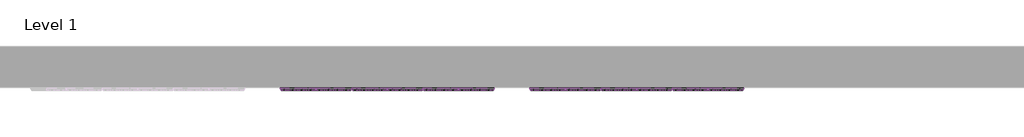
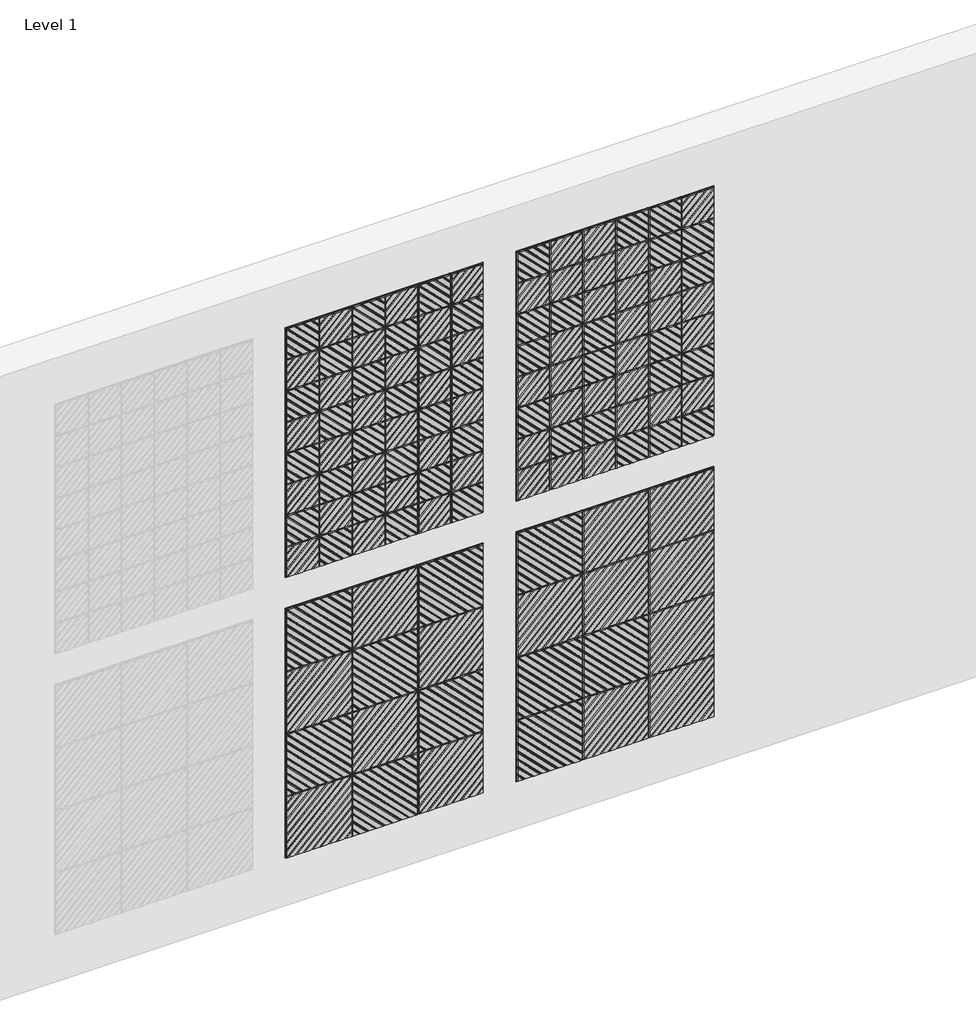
# One storey, part 3 of 3: 120 proxies.
"""IFC4 building model written with IfcOpenShell, lengths in millimetres."""

from ifc_helpers import new_model, si_unit, origin, place, context, project, spatial, transform, mapped, element, save
from components import maz_1_18_b906de22, maz_1_18_0f88ea6f, maz_2_18_823d9414, maz_2_18_ea886329

model = new_model("IFC4")

# Units and contexts
model_context = context("Model", 3, world=origin())
ifc_project = project(units=[si_unit("LENGTHUNIT", "METRE", prefix="MILLI")], contexts=[model_context])

# Site, building, storey
site = spatial("IfcSite", under=ifc_project)
building = spatial("IfcBuilding", under=site)
storey = spatial("IfcBuildingStorey", under=building, Name="Level 1", Elevation=0.0)

# Proxies
placement = place(None, origin())
maz_1_18_shape = maz_1_18_b906de22(model_context)
element("IfcBuildingElementProxy", 1, Name="Turf_Wall Tile_Maze : MAZ-1-18", ObjectType="Turf_Wall Tile_Maze : MAZ-1-18", at=placement, inside=storey, context=model_context, shape_type="MappedRepresentation", body=[
    mapped(maz_1_18_shape, transform((8039.9030998, 1379.3506904, 5501.5326506), x_axis=(1.0, 0.0, 0.0), y_axis=(0.0, 0.0, 1.0), z_axis=(0.0, -1.0, 0.0))),
])
element("IfcBuildingElementProxy", 2, Name="Turf_Wall Tile_Maze : MAZ-1-18", ObjectType="Turf_Wall Tile_Maze : MAZ-1-18", at=placement, inside=storey, context=model_context, shape_type="MappedRepresentation", body=[
    mapped(maz_1_18_shape, transform((8344.7030998, 1379.3506904, 5501.5326506), x_axis=(0.0, 0.0, 1.0), y_axis=(-1.0, 0.0, 0.0), z_axis=(0.0, -1.0, 0.0))),
])
element("IfcBuildingElementProxy", 3, Name="Turf_Wall Tile_Maze : MAZ-1-18", ObjectType="Turf_Wall Tile_Maze : MAZ-1-18", at=placement, inside=storey, context=model_context, shape_type="MappedRepresentation", body=[
    mapped(maz_1_18_shape, transform((9259.1030998, 1379.3506904, 5501.5326506), x_axis=(1.0, 0.0, 0.0), y_axis=(0.0, 0.0, 1.0), z_axis=(0.0, -1.0, 0.0))),
])
element("IfcBuildingElementProxy", 4, Name="Turf_Wall Tile_Maze : MAZ-1-18", ObjectType="Turf_Wall Tile_Maze : MAZ-1-18", at=placement, inside=storey, context=model_context, shape_type="MappedRepresentation", body=[
    mapped(maz_1_18_shape, transform((7735.1030998, 1379.3506904, 5501.5326506), x_axis=(0.0, 0.0, 1.0), y_axis=(-1.0, 0.0, 0.0), z_axis=(0.0, -1.0, 0.0))),
])
element("IfcBuildingElementProxy", 5, Name="Turf_Wall Tile_Maze : MAZ-1-18", ObjectType="Turf_Wall Tile_Maze : MAZ-1-18", at=placement, inside=storey, context=model_context, shape_type="MappedRepresentation", body=[
    mapped(maz_1_18_shape, transform((8649.5030998, 1379.3506904, 5501.5326506), x_axis=(1.0, 0.0, 0.0), y_axis=(0.0, 0.0, 1.0), z_axis=(0.0, -1.0, 0.0))),
])
element("IfcBuildingElementProxy", 6, Name="Turf_Wall Tile_Maze : MAZ-1-18", ObjectType="Turf_Wall Tile_Maze : MAZ-1-18", at=placement, inside=storey, context=model_context, shape_type="MappedRepresentation", body=[
    mapped(maz_1_18_shape, transform((8954.3030998, 1379.3506904, 5501.5326506), x_axis=(0.0, 0.0, 1.0), y_axis=(-1.0, 0.0, 0.0), z_axis=(0.0, -1.0, 0.0))),
])
element("IfcBuildingElementProxy", 7, Name="Turf_Wall Tile_Maze : MAZ-1-18", ObjectType="Turf_Wall Tile_Maze : MAZ-1-18", at=placement, inside=storey, context=model_context, shape_type="MappedRepresentation", body=[
    mapped(maz_1_18_shape, transform((8039.9030998, 1379.3506904, 4891.9326506), x_axis=(1.0, 0.0, 0.0), y_axis=(0.0, 0.0, 1.0), z_axis=(0.0, -1.0, 0.0))),
])
element("IfcBuildingElementProxy", 8, Name="Turf_Wall Tile_Maze : MAZ-1-18", ObjectType="Turf_Wall Tile_Maze : MAZ-1-18", at=placement, inside=storey, context=model_context, shape_type="MappedRepresentation", body=[
    mapped(maz_1_18_shape, transform((8344.7030998, 1379.3506904, 4891.9326506), x_axis=(0.0, 0.0, 1.0), y_axis=(-1.0, 0.0, 0.0), z_axis=(0.0, -1.0, 0.0))),
])
element("IfcBuildingElementProxy", 9, Name="Turf_Wall Tile_Maze : MAZ-1-18", ObjectType="Turf_Wall Tile_Maze : MAZ-1-18", at=placement, inside=storey, context=model_context, shape_type="MappedRepresentation", body=[
    mapped(maz_1_18_shape, transform((9259.1030998, 1379.3506904, 4891.9326506), x_axis=(1.0, 0.0, 0.0), y_axis=(0.0, 0.0, 1.0), z_axis=(0.0, -1.0, 0.0))),
])
element("IfcBuildingElementProxy", 10, Name="Turf_Wall Tile_Maze : MAZ-1-18", ObjectType="Turf_Wall Tile_Maze : MAZ-1-18", at=placement, inside=storey, context=model_context, shape_type="MappedRepresentation", body=[
    mapped(maz_1_18_shape, transform((7735.1030998, 1379.3506904, 4891.9326506), x_axis=(0.0, 0.0, 1.0), y_axis=(-1.0, 0.0, 0.0), z_axis=(0.0, -1.0, 0.0))),
])
element("IfcBuildingElementProxy", 11, Name="Turf_Wall Tile_Maze : MAZ-1-18", ObjectType="Turf_Wall Tile_Maze : MAZ-1-18", at=placement, inside=storey, context=model_context, shape_type="MappedRepresentation", body=[
    mapped(maz_1_18_shape, transform((8649.5030998, 1379.3506904, 4891.9326506), x_axis=(1.0, 0.0, 0.0), y_axis=(0.0, 0.0, 1.0), z_axis=(0.0, -1.0, 0.0))),
])
element("IfcBuildingElementProxy", 12, Name="Turf_Wall Tile_Maze : MAZ-1-18", ObjectType="Turf_Wall Tile_Maze : MAZ-1-18", at=placement, inside=storey, context=model_context, shape_type="MappedRepresentation", body=[
    mapped(maz_1_18_shape, transform((8954.3030998, 1379.3506904, 4891.9326506), x_axis=(0.0, 0.0, 1.0), y_axis=(-1.0, 0.0, 0.0), z_axis=(0.0, -1.0, 0.0))),
])
element("IfcBuildingElementProxy", 13, Name="Turf_Wall Tile_Maze : MAZ-1-18", ObjectType="Turf_Wall Tile_Maze : MAZ-1-18", at=placement, inside=storey, context=model_context, shape_type="MappedRepresentation", body=[
    mapped(maz_1_18_shape, transform((8039.9030998, 1379.3506904, 4282.3326506), x_axis=(1.0, 0.0, 0.0), y_axis=(0.0, 0.0, 1.0), z_axis=(0.0, -1.0, 0.0))),
])
element("IfcBuildingElementProxy", 14, Name="Turf_Wall Tile_Maze : MAZ-1-18", ObjectType="Turf_Wall Tile_Maze : MAZ-1-18", at=placement, inside=storey, context=model_context, shape_type="MappedRepresentation", body=[
    mapped(maz_1_18_shape, transform((8344.7030998, 1379.3506904, 4282.3326506), x_axis=(0.0, 0.0, 1.0), y_axis=(-1.0, 0.0, 0.0), z_axis=(0.0, -1.0, 0.0))),
])
element("IfcBuildingElementProxy", 15, Name="Turf_Wall Tile_Maze : MAZ-1-18", ObjectType="Turf_Wall Tile_Maze : MAZ-1-18", at=placement, inside=storey, context=model_context, shape_type="MappedRepresentation", body=[
    mapped(maz_1_18_shape, transform((9259.1030998, 1379.3506904, 4282.3326506), x_axis=(1.0, 0.0, 0.0), y_axis=(0.0, 0.0, 1.0), z_axis=(0.0, -1.0, 0.0))),
])
element("IfcBuildingElementProxy", 16, Name="Turf_Wall Tile_Maze : MAZ-1-18", ObjectType="Turf_Wall Tile_Maze : MAZ-1-18", at=placement, inside=storey, context=model_context, shape_type="MappedRepresentation", body=[
    mapped(maz_1_18_shape, transform((7735.1030998, 1379.3506904, 4282.3326506), x_axis=(0.0, 0.0, 1.0), y_axis=(-1.0, 0.0, 0.0), z_axis=(0.0, -1.0, 0.0))),
])
element("IfcBuildingElementProxy", 17, Name="Turf_Wall Tile_Maze : MAZ-1-18", ObjectType="Turf_Wall Tile_Maze : MAZ-1-18", at=placement, inside=storey, context=model_context, shape_type="MappedRepresentation", body=[
    mapped(maz_1_18_shape, transform((8649.5030998, 1379.3506904, 4282.3326506), x_axis=(1.0, 0.0, 0.0), y_axis=(0.0, 0.0, 1.0), z_axis=(0.0, -1.0, 0.0))),
])
element("IfcBuildingElementProxy", 18, Name="Turf_Wall Tile_Maze : MAZ-1-18", ObjectType="Turf_Wall Tile_Maze : MAZ-1-18", at=placement, inside=storey, context=model_context, shape_type="MappedRepresentation", body=[
    mapped(maz_1_18_shape, transform((8954.3030998, 1379.3506904, 4282.3326506), x_axis=(0.0, 0.0, 1.0), y_axis=(-1.0, 0.0, 0.0), z_axis=(0.0, -1.0, 0.0))),
])
element("IfcBuildingElementProxy", 19, Name="Turf_Wall Tile_Maze : MAZ-1-18", ObjectType="Turf_Wall Tile_Maze : MAZ-1-18", at=placement, inside=storey, context=model_context, shape_type="MappedRepresentation", body=[
    mapped(maz_1_18_shape, transform((8039.9030998, 1379.3506904, 3672.7326506), x_axis=(1.0, 0.0, 0.0), y_axis=(0.0, 0.0, 1.0), z_axis=(0.0, -1.0, 0.0))),
])
element("IfcBuildingElementProxy", 20, Name="Turf_Wall Tile_Maze : MAZ-1-18", ObjectType="Turf_Wall Tile_Maze : MAZ-1-18", at=placement, inside=storey, context=model_context, shape_type="MappedRepresentation", body=[
    mapped(maz_1_18_shape, transform((8344.7030998, 1379.3506904, 3672.7326506), x_axis=(0.0, 0.0, 1.0), y_axis=(-1.0, 0.0, 0.0), z_axis=(0.0, -1.0, 0.0))),
])
element("IfcBuildingElementProxy", 21, Name="Turf_Wall Tile_Maze : MAZ-1-18", ObjectType="Turf_Wall Tile_Maze : MAZ-1-18", at=placement, inside=storey, context=model_context, shape_type="MappedRepresentation", body=[
    mapped(maz_1_18_shape, transform((9259.1030998, 1379.3506904, 3672.7326506), x_axis=(1.0, 0.0, 0.0), y_axis=(0.0, 0.0, 1.0), z_axis=(0.0, -1.0, 0.0))),
])
element("IfcBuildingElementProxy", 22, Name="Turf_Wall Tile_Maze : MAZ-1-18", ObjectType="Turf_Wall Tile_Maze : MAZ-1-18", at=placement, inside=storey, context=model_context, shape_type="MappedRepresentation", body=[
    mapped(maz_1_18_shape, transform((7735.1030998, 1379.3506904, 3672.7326506), x_axis=(0.0, 0.0, 1.0), y_axis=(-1.0, 0.0, 0.0), z_axis=(0.0, -1.0, 0.0))),
])
element("IfcBuildingElementProxy", 23, Name="Turf_Wall Tile_Maze : MAZ-1-18", ObjectType="Turf_Wall Tile_Maze : MAZ-1-18", at=placement, inside=storey, context=model_context, shape_type="MappedRepresentation", body=[
    mapped(maz_1_18_shape, transform((8649.5030998, 1379.3506904, 3672.7326506), x_axis=(1.0, 0.0, 0.0), y_axis=(0.0, 0.0, 1.0), z_axis=(0.0, -1.0, 0.0))),
])
element("IfcBuildingElementProxy", 24, Name="Turf_Wall Tile_Maze : MAZ-1-18", ObjectType="Turf_Wall Tile_Maze : MAZ-1-18", at=placement, inside=storey, context=model_context, shape_type="MappedRepresentation", body=[
    mapped(maz_1_18_shape, transform((8954.3030998, 1379.3506904, 3672.7326506), x_axis=(0.0, 0.0, 1.0), y_axis=(-1.0, 0.0, 0.0), z_axis=(0.0, -1.0, 0.0))),
])
maz_1_18_2_shape = maz_1_18_0f88ea6f(model_context)
element("IfcBuildingElementProxy", 25, Name="Turf_Wall Tile_Maze : MAZ-1-18", ObjectType="Turf_Wall Tile_Maze : MAZ-1-18", at=placement, inside=storey, context=model_context, shape_type="MappedRepresentation", body=[
    mapped(maz_1_18_2_shape, transform((8039.9030998, 1379.3506904, 5196.7326506), x_axis=(1.0, 0.0, 0.0), y_axis=(0.0, 0.0, 1.0), z_axis=(0.0, -1.0, 0.0))),
])
element("IfcBuildingElementProxy", 26, Name="Turf_Wall Tile_Maze : MAZ-1-18", ObjectType="Turf_Wall Tile_Maze : MAZ-1-18", at=placement, inside=storey, context=model_context, shape_type="MappedRepresentation", body=[
    mapped(maz_1_18_2_shape, transform((8344.7030998, 1379.3506904, 5196.7326506), x_axis=(0.0, 0.0, -1.0), y_axis=(1.0, 0.0, 0.0), z_axis=(0.0, -1.0, 0.0))),
])
element("IfcBuildingElementProxy", 27, Name="Turf_Wall Tile_Maze : MAZ-1-18", ObjectType="Turf_Wall Tile_Maze : MAZ-1-18", at=placement, inside=storey, context=model_context, shape_type="MappedRepresentation", body=[
    mapped(maz_1_18_2_shape, transform((9259.1030998, 1379.3506904, 5196.7326506), x_axis=(1.0, 0.0, 0.0), y_axis=(0.0, 0.0, 1.0), z_axis=(0.0, -1.0, 0.0))),
])
element("IfcBuildingElementProxy", 28, Name="Turf_Wall Tile_Maze : MAZ-1-18", ObjectType="Turf_Wall Tile_Maze : MAZ-1-18", at=placement, inside=storey, context=model_context, shape_type="MappedRepresentation", body=[
    mapped(maz_1_18_2_shape, transform((7735.1030998, 1379.3506904, 5196.7326506), x_axis=(0.0, 0.0, -1.0), y_axis=(1.0, 0.0, 0.0), z_axis=(0.0, -1.0, 0.0))),
])
element("IfcBuildingElementProxy", 29, Name="Turf_Wall Tile_Maze : MAZ-1-18", ObjectType="Turf_Wall Tile_Maze : MAZ-1-18", at=placement, inside=storey, context=model_context, shape_type="MappedRepresentation", body=[
    mapped(maz_1_18_2_shape, transform((8649.5030998, 1379.3506904, 5196.7326506), x_axis=(1.0, 0.0, 0.0), y_axis=(0.0, 0.0, 1.0), z_axis=(0.0, -1.0, 0.0))),
])
element("IfcBuildingElementProxy", 30, Name="Turf_Wall Tile_Maze : MAZ-1-18", ObjectType="Turf_Wall Tile_Maze : MAZ-1-18", at=placement, inside=storey, context=model_context, shape_type="MappedRepresentation", body=[
    mapped(maz_1_18_2_shape, transform((8954.3030998, 1379.3506904, 5196.7326506), x_axis=(0.0, 0.0, -1.0), y_axis=(1.0, 0.0, 0.0), z_axis=(0.0, -1.0, 0.0))),
])
element("IfcBuildingElementProxy", 31, Name="Turf_Wall Tile_Maze : MAZ-1-18", ObjectType="Turf_Wall Tile_Maze : MAZ-1-18", at=placement, inside=storey, context=model_context, shape_type="MappedRepresentation", body=[
    mapped(maz_1_18_2_shape, transform((8039.9030998, 1379.3506904, 4587.1326506), x_axis=(1.0, 0.0, 0.0), y_axis=(0.0, 0.0, 1.0), z_axis=(0.0, -1.0, 0.0))),
])
element("IfcBuildingElementProxy", 32, Name="Turf_Wall Tile_Maze : MAZ-1-18", ObjectType="Turf_Wall Tile_Maze : MAZ-1-18", at=placement, inside=storey, context=model_context, shape_type="MappedRepresentation", body=[
    mapped(maz_1_18_2_shape, transform((8344.7030998, 1379.3506904, 4587.1326506), x_axis=(0.0, 0.0, -1.0), y_axis=(1.0, 0.0, 0.0), z_axis=(0.0, -1.0, 0.0))),
])
element("IfcBuildingElementProxy", 33, Name="Turf_Wall Tile_Maze : MAZ-1-18", ObjectType="Turf_Wall Tile_Maze : MAZ-1-18", at=placement, inside=storey, context=model_context, shape_type="MappedRepresentation", body=[
    mapped(maz_1_18_2_shape, transform((9259.1030998, 1379.3506904, 4587.1326506), x_axis=(1.0, 0.0, 0.0), y_axis=(0.0, 0.0, 1.0), z_axis=(0.0, -1.0, 0.0))),
])
element("IfcBuildingElementProxy", 34, Name="Turf_Wall Tile_Maze : MAZ-1-18", ObjectType="Turf_Wall Tile_Maze : MAZ-1-18", at=placement, inside=storey, context=model_context, shape_type="MappedRepresentation", body=[
    mapped(maz_1_18_2_shape, transform((7735.1030998, 1379.3506904, 4587.1326506), x_axis=(0.0, 0.0, -1.0), y_axis=(1.0, 0.0, 0.0), z_axis=(0.0, -1.0, 0.0))),
])
element("IfcBuildingElementProxy", 35, Name="Turf_Wall Tile_Maze : MAZ-1-18", ObjectType="Turf_Wall Tile_Maze : MAZ-1-18", at=placement, inside=storey, context=model_context, shape_type="MappedRepresentation", body=[
    mapped(maz_1_18_2_shape, transform((8649.5030998, 1379.3506904, 4587.1326506), x_axis=(1.0, 0.0, 0.0), y_axis=(0.0, 0.0, 1.0), z_axis=(0.0, -1.0, 0.0))),
])
element("IfcBuildingElementProxy", 36, Name="Turf_Wall Tile_Maze : MAZ-1-18", ObjectType="Turf_Wall Tile_Maze : MAZ-1-18", at=placement, inside=storey, context=model_context, shape_type="MappedRepresentation", body=[
    mapped(maz_1_18_2_shape, transform((8954.3030998, 1379.3506904, 4587.1326506), x_axis=(0.0, 0.0, -1.0), y_axis=(1.0, 0.0, 0.0), z_axis=(0.0, -1.0, 0.0))),
])
element("IfcBuildingElementProxy", 37, Name="Turf_Wall Tile_Maze : MAZ-1-18", ObjectType="Turf_Wall Tile_Maze : MAZ-1-18", at=placement, inside=storey, context=model_context, shape_type="MappedRepresentation", body=[
    mapped(maz_1_18_2_shape, transform((8039.9030998, 1379.3506904, 3977.5326506), x_axis=(1.0, 0.0, 0.0), y_axis=(0.0, 0.0, 1.0), z_axis=(0.0, -1.0, 0.0))),
])
element("IfcBuildingElementProxy", 38, Name="Turf_Wall Tile_Maze : MAZ-1-18", ObjectType="Turf_Wall Tile_Maze : MAZ-1-18", at=placement, inside=storey, context=model_context, shape_type="MappedRepresentation", body=[
    mapped(maz_1_18_2_shape, transform((8344.7030998, 1379.3506904, 3977.5326506), x_axis=(0.0, 0.0, -1.0), y_axis=(1.0, 0.0, 0.0), z_axis=(0.0, -1.0, 0.0))),
])
element("IfcBuildingElementProxy", 39, Name="Turf_Wall Tile_Maze : MAZ-1-18", ObjectType="Turf_Wall Tile_Maze : MAZ-1-18", at=placement, inside=storey, context=model_context, shape_type="MappedRepresentation", body=[
    mapped(maz_1_18_2_shape, transform((9259.1030998, 1379.3506904, 3977.5326506), x_axis=(1.0, 0.0, 0.0), y_axis=(0.0, 0.0, 1.0), z_axis=(0.0, -1.0, 0.0))),
])
element("IfcBuildingElementProxy", 40, Name="Turf_Wall Tile_Maze : MAZ-1-18", ObjectType="Turf_Wall Tile_Maze : MAZ-1-18", at=placement, inside=storey, context=model_context, shape_type="MappedRepresentation", body=[
    mapped(maz_1_18_2_shape, transform((7735.1030998, 1379.3506904, 3977.5326506), x_axis=(0.0, 0.0, -1.0), y_axis=(1.0, 0.0, 0.0), z_axis=(0.0, -1.0, 0.0))),
])
element("IfcBuildingElementProxy", 41, Name="Turf_Wall Tile_Maze : MAZ-1-18", ObjectType="Turf_Wall Tile_Maze : MAZ-1-18", at=placement, inside=storey, context=model_context, shape_type="MappedRepresentation", body=[
    mapped(maz_1_18_2_shape, transform((8649.5030998, 1379.3506904, 3977.5326506), x_axis=(1.0, 0.0, 0.0), y_axis=(0.0, 0.0, 1.0), z_axis=(0.0, -1.0, 0.0))),
])
element("IfcBuildingElementProxy", 42, Name="Turf_Wall Tile_Maze : MAZ-1-18", ObjectType="Turf_Wall Tile_Maze : MAZ-1-18", at=placement, inside=storey, context=model_context, shape_type="MappedRepresentation", body=[
    mapped(maz_1_18_2_shape, transform((8954.3030998, 1379.3506904, 3977.5326506), x_axis=(0.0, 0.0, -1.0), y_axis=(1.0, 0.0, 0.0), z_axis=(0.0, -1.0, 0.0))),
])
element("IfcBuildingElementProxy", 43, Name="Turf_Wall Tile_Maze : MAZ-1-18", ObjectType="Turf_Wall Tile_Maze : MAZ-1-18", at=placement, inside=storey, context=model_context, shape_type="MappedRepresentation", body=[
    mapped(maz_1_18_2_shape, transform((8039.9030998, 1379.3506904, 3367.9326506), x_axis=(1.0, 0.0, 0.0), y_axis=(0.0, 0.0, 1.0), z_axis=(0.0, -1.0, 0.0))),
])
element("IfcBuildingElementProxy", 44, Name="Turf_Wall Tile_Maze : MAZ-1-18", ObjectType="Turf_Wall Tile_Maze : MAZ-1-18", at=placement, inside=storey, context=model_context, shape_type="MappedRepresentation", body=[
    mapped(maz_1_18_2_shape, transform((8344.7030998, 1379.3506904, 3367.9326506), x_axis=(0.0, 0.0, -1.0), y_axis=(1.0, 0.0, 0.0), z_axis=(0.0, -1.0, 0.0))),
])
element("IfcBuildingElementProxy", 45, Name="Turf_Wall Tile_Maze : MAZ-1-18", ObjectType="Turf_Wall Tile_Maze : MAZ-1-18", at=placement, inside=storey, context=model_context, shape_type="MappedRepresentation", body=[
    mapped(maz_1_18_2_shape, transform((9259.1030998, 1379.3506904, 3367.9326506), x_axis=(1.0, 0.0, 0.0), y_axis=(0.0, 0.0, 1.0), z_axis=(0.0, -1.0, 0.0))),
])
element("IfcBuildingElementProxy", 46, Name="Turf_Wall Tile_Maze : MAZ-1-18", ObjectType="Turf_Wall Tile_Maze : MAZ-1-18", at=placement, inside=storey, context=model_context, shape_type="MappedRepresentation", body=[
    mapped(maz_1_18_2_shape, transform((7735.1030998, 1379.3506904, 3367.9326506), x_axis=(0.0, 0.0, -1.0), y_axis=(1.0, 0.0, 0.0), z_axis=(0.0, -1.0, 0.0))),
])
element("IfcBuildingElementProxy", 47, Name="Turf_Wall Tile_Maze : MAZ-1-18", ObjectType="Turf_Wall Tile_Maze : MAZ-1-18", at=placement, inside=storey, context=model_context, shape_type="MappedRepresentation", body=[
    mapped(maz_1_18_2_shape, transform((8649.5030998, 1379.3506904, 3367.9326506), x_axis=(1.0, 0.0, 0.0), y_axis=(0.0, 0.0, 1.0), z_axis=(0.0, -1.0, 0.0))),
])
element("IfcBuildingElementProxy", 48, Name="Turf_Wall Tile_Maze : MAZ-1-18", ObjectType="Turf_Wall Tile_Maze : MAZ-1-18", at=placement, inside=storey, context=model_context, shape_type="MappedRepresentation", body=[
    mapped(maz_1_18_2_shape, transform((8954.3030998, 1379.3506904, 3367.9326506), x_axis=(0.0, 0.0, -1.0), y_axis=(1.0, 0.0, 0.0), z_axis=(0.0, -1.0, 0.0))),
])
element("IfcBuildingElementProxy", 49, Name="Turf_Wall Tile_Maze : MAZ-1-18", ObjectType="Turf_Wall Tile_Maze : MAZ-1-18", at=placement, inside=storey, context=model_context, shape_type="MappedRepresentation", body=[
    mapped(maz_1_18_shape, transform((10173.5030998, 1379.3506904, 5501.5326506), x_axis=(1.0, 0.0, 0.0), y_axis=(0.0, 0.0, 1.0), z_axis=(0.0, -1.0, 0.0))),
])
element("IfcBuildingElementProxy", 50, Name="Turf_Wall Tile_Maze : MAZ-1-18", ObjectType="Turf_Wall Tile_Maze : MAZ-1-18", at=placement, inside=storey, context=model_context, shape_type="MappedRepresentation", body=[
    mapped(maz_1_18_shape, transform((10478.3030998, 1379.3506904, 5501.5326506), x_axis=(-1.0, 0.0, 0.0), y_axis=(0.0, 0.0, -1.0), z_axis=(0.0, -1.0, 0.0))),
])
element("IfcBuildingElementProxy", 51, Name="Turf_Wall Tile_Maze : MAZ-1-18", ObjectType="Turf_Wall Tile_Maze : MAZ-1-18", at=placement, inside=storey, context=model_context, shape_type="MappedRepresentation", body=[
    mapped(maz_1_18_shape, transform((11392.7030998, 1379.3506904, 5501.5326506), x_axis=(1.0, 0.0, 0.0), y_axis=(0.0, 0.0, 1.0), z_axis=(0.0, -1.0, 0.0))),
])
element("IfcBuildingElementProxy", 52, Name="Turf_Wall Tile_Maze : MAZ-1-18", ObjectType="Turf_Wall Tile_Maze : MAZ-1-18", at=placement, inside=storey, context=model_context, shape_type="MappedRepresentation", body=[
    mapped(maz_1_18_shape, transform((9868.7030998, 1379.3506904, 5501.5326506), x_axis=(0.0, 0.0, 1.0), y_axis=(-1.0, 0.0, 0.0), z_axis=(0.0, -1.0, 0.0))),
])
element("IfcBuildingElementProxy", 53, Name="Turf_Wall Tile_Maze : MAZ-1-18", ObjectType="Turf_Wall Tile_Maze : MAZ-1-18", at=placement, inside=storey, context=model_context, shape_type="MappedRepresentation", body=[
    mapped(maz_1_18_shape, transform((10783.1030998, 1379.3506904, 5501.5326506), x_axis=(0.0, 0.0, 1.0), y_axis=(-1.0, 0.0, 0.0), z_axis=(0.0, -1.0, 0.0))),
])
element("IfcBuildingElementProxy", 54, Name="Turf_Wall Tile_Maze : MAZ-1-18", ObjectType="Turf_Wall Tile_Maze : MAZ-1-18", at=placement, inside=storey, context=model_context, shape_type="MappedRepresentation", body=[
    mapped(maz_1_18_shape, transform((11087.9030998, 1379.3506904, 5501.5326506), x_axis=(0.0, 0.0, 1.0), y_axis=(-1.0, 0.0, 0.0), z_axis=(0.0, -1.0, 0.0))),
])
element("IfcBuildingElementProxy", 55, Name="Turf_Wall Tile_Maze : MAZ-1-18", ObjectType="Turf_Wall Tile_Maze : MAZ-1-18", at=placement, inside=storey, context=model_context, shape_type="MappedRepresentation", body=[
    mapped(maz_1_18_shape, transform((10173.5030998, 1379.3506904, 4891.9326506), x_axis=(0.0, 0.0, 1.0), y_axis=(-1.0, 0.0, 0.0), z_axis=(0.0, -1.0, 0.0))),
])
element("IfcBuildingElementProxy", 56, Name="Turf_Wall Tile_Maze : MAZ-1-18", ObjectType="Turf_Wall Tile_Maze : MAZ-1-18", at=placement, inside=storey, context=model_context, shape_type="MappedRepresentation", body=[
    mapped(maz_1_18_shape, transform((10478.3030998, 1379.3506904, 4891.9326506), x_axis=(-1.0, 0.0, 0.0), y_axis=(0.0, 0.0, -1.0), z_axis=(0.0, -1.0, 0.0))),
])
element("IfcBuildingElementProxy", 57, Name="Turf_Wall Tile_Maze : MAZ-1-18", ObjectType="Turf_Wall Tile_Maze : MAZ-1-18", at=placement, inside=storey, context=model_context, shape_type="MappedRepresentation", body=[
    mapped(maz_1_18_shape, transform((11392.7030998, 1379.3506904, 4891.9326506), x_axis=(0.0, 0.0, 1.0), y_axis=(-1.0, 0.0, 0.0), z_axis=(0.0, -1.0, 0.0))),
])
element("IfcBuildingElementProxy", 58, Name="Turf_Wall Tile_Maze : MAZ-1-18", ObjectType="Turf_Wall Tile_Maze : MAZ-1-18", at=placement, inside=storey, context=model_context, shape_type="MappedRepresentation", body=[
    mapped(maz_1_18_shape, transform((9868.7030998, 1379.3506904, 4891.9326506), x_axis=(0.0, 0.0, 1.0), y_axis=(-1.0, 0.0, 0.0), z_axis=(0.0, -1.0, 0.0))),
])
element("IfcBuildingElementProxy", 59, Name="Turf_Wall Tile_Maze : MAZ-1-18", ObjectType="Turf_Wall Tile_Maze : MAZ-1-18", at=placement, inside=storey, context=model_context, shape_type="MappedRepresentation", body=[
    mapped(maz_1_18_shape, transform((10783.1030998, 1379.3506904, 4891.9326506), x_axis=(-1.0, 0.0, 0.0), y_axis=(0.0, 0.0, -1.0), z_axis=(0.0, -1.0, 0.0))),
])
element("IfcBuildingElementProxy", 60, Name="Turf_Wall Tile_Maze : MAZ-1-18", ObjectType="Turf_Wall Tile_Maze : MAZ-1-18", at=placement, inside=storey, context=model_context, shape_type="MappedRepresentation", body=[
    mapped(maz_1_18_shape, transform((11087.9030998, 1379.3506904, 4891.9326506), x_axis=(-1.0, 0.0, 0.0), y_axis=(0.0, 0.0, -1.0), z_axis=(0.0, -1.0, 0.0))),
])
element("IfcBuildingElementProxy", 61, Name="Turf_Wall Tile_Maze : MAZ-1-18", ObjectType="Turf_Wall Tile_Maze : MAZ-1-18", at=placement, inside=storey, context=model_context, shape_type="MappedRepresentation", body=[
    mapped(maz_1_18_shape, transform((10173.5030998, 1379.3506904, 4282.3326506), x_axis=(-1.0, 0.0, 0.0), y_axis=(0.0, 0.0, -1.0), z_axis=(0.0, -1.0, 0.0))),
])
element("IfcBuildingElementProxy", 62, Name="Turf_Wall Tile_Maze : MAZ-1-18", ObjectType="Turf_Wall Tile_Maze : MAZ-1-18", at=placement, inside=storey, context=model_context, shape_type="MappedRepresentation", body=[
    mapped(maz_1_18_shape, transform((10478.3030998, 1379.3506904, 4282.3326506), x_axis=(0.0, 0.0, -1.0), y_axis=(1.0, 0.0, 0.0), z_axis=(0.0, -1.0, 0.0))),
])
element("IfcBuildingElementProxy", 63, Name="Turf_Wall Tile_Maze : MAZ-1-18", ObjectType="Turf_Wall Tile_Maze : MAZ-1-18", at=placement, inside=storey, context=model_context, shape_type="MappedRepresentation", body=[
    mapped(maz_1_18_shape, transform((11392.7030998, 1379.3506904, 4282.3326506), x_axis=(1.0, 0.0, 0.0), y_axis=(0.0, 0.0, 1.0), z_axis=(0.0, -1.0, 0.0))),
])
element("IfcBuildingElementProxy", 64, Name="Turf_Wall Tile_Maze : MAZ-1-18", ObjectType="Turf_Wall Tile_Maze : MAZ-1-18", at=placement, inside=storey, context=model_context, shape_type="MappedRepresentation", body=[
    mapped(maz_1_18_shape, transform((9868.7030998, 1379.3506904, 4282.3326506), x_axis=(-1.0, 0.0, 0.0), y_axis=(0.0, 0.0, -1.0), z_axis=(0.0, -1.0, 0.0))),
])
element("IfcBuildingElementProxy", 65, Name="Turf_Wall Tile_Maze : MAZ-1-18", ObjectType="Turf_Wall Tile_Maze : MAZ-1-18", at=placement, inside=storey, context=model_context, shape_type="MappedRepresentation", body=[
    mapped(maz_1_18_shape, transform((10783.1030998, 1379.3506904, 4282.3326506), x_axis=(-1.0, 0.0, 0.0), y_axis=(0.0, 0.0, -1.0), z_axis=(0.0, -1.0, 0.0))),
])
element("IfcBuildingElementProxy", 66, Name="Turf_Wall Tile_Maze : MAZ-1-18", ObjectType="Turf_Wall Tile_Maze : MAZ-1-18", at=placement, inside=storey, context=model_context, shape_type="MappedRepresentation", body=[
    mapped(maz_1_18_shape, transform((11087.9030998, 1379.3506904, 4282.3326506), x_axis=(0.0, 0.0, -1.0), y_axis=(1.0, 0.0, 0.0), z_axis=(0.0, -1.0, 0.0))),
])
element("IfcBuildingElementProxy", 67, Name="Turf_Wall Tile_Maze : MAZ-1-18", ObjectType="Turf_Wall Tile_Maze : MAZ-1-18", at=placement, inside=storey, context=model_context, shape_type="MappedRepresentation", body=[
    mapped(maz_1_18_2_shape, transform((10173.5030998, 1379.3506904, 5196.7326506), x_axis=(0.0, 0.0, 1.0), y_axis=(-1.0, 0.0, 0.0), z_axis=(0.0, -1.0, 0.0))),
])
element("IfcBuildingElementProxy", 68, Name="Turf_Wall Tile_Maze : MAZ-1-18", ObjectType="Turf_Wall Tile_Maze : MAZ-1-18", at=placement, inside=storey, context=model_context, shape_type="MappedRepresentation", body=[
    mapped(maz_1_18_2_shape, transform((10478.3030998, 1379.3506904, 5196.7326506), x_axis=(0.0, 0.0, -1.0), y_axis=(1.0, 0.0, 0.0), z_axis=(0.0, -1.0, 0.0))),
])
element("IfcBuildingElementProxy", 69, Name="Turf_Wall Tile_Maze : MAZ-1-18", ObjectType="Turf_Wall Tile_Maze : MAZ-1-18", at=placement, inside=storey, context=model_context, shape_type="MappedRepresentation", body=[
    mapped(maz_1_18_2_shape, transform((11392.7030998, 1379.3506904, 5196.7326506), x_axis=(1.0, 0.0, 0.0), y_axis=(0.0, 0.0, 1.0), z_axis=(0.0, -1.0, 0.0))),
])
element("IfcBuildingElementProxy", 70, Name="Turf_Wall Tile_Maze : MAZ-1-18", ObjectType="Turf_Wall Tile_Maze : MAZ-1-18", at=placement, inside=storey, context=model_context, shape_type="MappedRepresentation", body=[
    mapped(maz_1_18_2_shape, transform((9868.7030998, 1379.3506904, 5196.7326506), x_axis=(0.0, 0.0, -1.0), y_axis=(1.0, 0.0, 0.0), z_axis=(0.0, -1.0, 0.0))),
])
element("IfcBuildingElementProxy", 71, Name="Turf_Wall Tile_Maze : MAZ-1-18", ObjectType="Turf_Wall Tile_Maze : MAZ-1-18", at=placement, inside=storey, context=model_context, shape_type="MappedRepresentation", body=[
    mapped(maz_1_18_2_shape, transform((10783.1030998, 1379.3506904, 5196.7326506), x_axis=(0.0, 0.0, 1.0), y_axis=(-1.0, 0.0, 0.0), z_axis=(0.0, -1.0, 0.0))),
])
element("IfcBuildingElementProxy", 72, Name="Turf_Wall Tile_Maze : MAZ-1-18", ObjectType="Turf_Wall Tile_Maze : MAZ-1-18", at=placement, inside=storey, context=model_context, shape_type="MappedRepresentation", body=[
    mapped(maz_1_18_2_shape, transform((11087.9030998, 1379.3506904, 5196.7326506), x_axis=(1.0, 0.0, 0.0), y_axis=(0.0, 0.0, 1.0), z_axis=(0.0, -1.0, 0.0))),
])
element("IfcBuildingElementProxy", 73, Name="Turf_Wall Tile_Maze : MAZ-1-18", ObjectType="Turf_Wall Tile_Maze : MAZ-1-18", at=placement, inside=storey, context=model_context, shape_type="MappedRepresentation", body=[
    mapped(maz_1_18_2_shape, transform((10173.5030998, 1379.3506904, 4587.1326506), x_axis=(0.0, 0.0, 1.0), y_axis=(-1.0, 0.0, 0.0), z_axis=(0.0, -1.0, 0.0))),
])
element("IfcBuildingElementProxy", 74, Name="Turf_Wall Tile_Maze : MAZ-1-18", ObjectType="Turf_Wall Tile_Maze : MAZ-1-18", at=placement, inside=storey, context=model_context, shape_type="MappedRepresentation", body=[
    mapped(maz_1_18_2_shape, transform((10478.3030998, 1379.3506904, 4587.1326506), x_axis=(1.0, 0.0, 0.0), y_axis=(0.0, 0.0, 1.0), z_axis=(0.0, -1.0, 0.0))),
])
element("IfcBuildingElementProxy", 75, Name="Turf_Wall Tile_Maze : MAZ-1-18", ObjectType="Turf_Wall Tile_Maze : MAZ-1-18", at=placement, inside=storey, context=model_context, shape_type="MappedRepresentation", body=[
    mapped(maz_1_18_2_shape, transform((11392.7030998, 1379.3506904, 4587.1326506), x_axis=(0.0, 0.0, 1.0), y_axis=(-1.0, 0.0, 0.0), z_axis=(0.0, -1.0, 0.0))),
])
element("IfcBuildingElementProxy", 76, Name="Turf_Wall Tile_Maze : MAZ-1-18", ObjectType="Turf_Wall Tile_Maze : MAZ-1-18", at=placement, inside=storey, context=model_context, shape_type="MappedRepresentation", body=[
    mapped(maz_1_18_2_shape, transform((9868.7030998, 1379.3506904, 4587.1326506), x_axis=(1.0, 0.0, 0.0), y_axis=(0.0, 0.0, 1.0), z_axis=(0.0, -1.0, 0.0))),
])
element("IfcBuildingElementProxy", 77, Name="Turf_Wall Tile_Maze : MAZ-1-18", ObjectType="Turf_Wall Tile_Maze : MAZ-1-18", at=placement, inside=storey, context=model_context, shape_type="MappedRepresentation", body=[
    mapped(maz_1_18_2_shape, transform((10783.1030998, 1379.3506904, 4587.1326506), x_axis=(0.0, 0.0, 1.0), y_axis=(-1.0, 0.0, 0.0), z_axis=(0.0, -1.0, 0.0))),
])
element("IfcBuildingElementProxy", 78, Name="Turf_Wall Tile_Maze : MAZ-1-18", ObjectType="Turf_Wall Tile_Maze : MAZ-1-18", at=placement, inside=storey, context=model_context, shape_type="MappedRepresentation", body=[
    mapped(maz_1_18_2_shape, transform((11087.9030998, 1379.3506904, 4587.1326506), x_axis=(0.0, 0.0, 1.0), y_axis=(-1.0, 0.0, 0.0), z_axis=(0.0, -1.0, 0.0))),
])
element("IfcBuildingElementProxy", 79, Name="Turf_Wall Tile_Maze : MAZ-1-18", ObjectType="Turf_Wall Tile_Maze : MAZ-1-18", at=placement, inside=storey, context=model_context, shape_type="MappedRepresentation", body=[
    mapped(maz_1_18_2_shape, transform((10173.5030998, 1379.3506904, 3977.5326506), x_axis=(0.0, 0.0, 1.0), y_axis=(-1.0, 0.0, 0.0), z_axis=(0.0, -1.0, 0.0))),
])
element("IfcBuildingElementProxy", 80, Name="Turf_Wall Tile_Maze : MAZ-1-18", ObjectType="Turf_Wall Tile_Maze : MAZ-1-18", at=placement, inside=storey, context=model_context, shape_type="MappedRepresentation", body=[
    mapped(maz_1_18_2_shape, transform((10478.3030998, 1379.3506904, 3977.5326506), x_axis=(0.0, 0.0, 1.0), y_axis=(-1.0, 0.0, 0.0), z_axis=(0.0, -1.0, 0.0))),
])
element("IfcBuildingElementProxy", 81, Name="Turf_Wall Tile_Maze : MAZ-1-18", ObjectType="Turf_Wall Tile_Maze : MAZ-1-18", at=placement, inside=storey, context=model_context, shape_type="MappedRepresentation", body=[
    mapped(maz_1_18_2_shape, transform((11392.7030998, 1379.3506904, 3977.5326506), x_axis=(-1.0, 0.0, 0.0), y_axis=(0.0, 0.0, -1.0), z_axis=(0.0, -1.0, 0.0))),
])
element("IfcBuildingElementProxy", 82, Name="Turf_Wall Tile_Maze : MAZ-1-18", ObjectType="Turf_Wall Tile_Maze : MAZ-1-18", at=placement, inside=storey, context=model_context, shape_type="MappedRepresentation", body=[
    mapped(maz_1_18_2_shape, transform((9868.7030998, 1379.3506904, 3977.5326506), x_axis=(1.0, 0.0, 0.0), y_axis=(0.0, 0.0, 1.0), z_axis=(0.0, -1.0, 0.0))),
])
element("IfcBuildingElementProxy", 83, Name="Turf_Wall Tile_Maze : MAZ-1-18", ObjectType="Turf_Wall Tile_Maze : MAZ-1-18", at=placement, inside=storey, context=model_context, shape_type="MappedRepresentation", body=[
    mapped(maz_1_18_2_shape, transform((10783.1030998, 1379.3506904, 3977.5326506), x_axis=(0.0, 0.0, 1.0), y_axis=(-1.0, 0.0, 0.0), z_axis=(0.0, -1.0, 0.0))),
])
element("IfcBuildingElementProxy", 84, Name="Turf_Wall Tile_Maze : MAZ-1-18", ObjectType="Turf_Wall Tile_Maze : MAZ-1-18", at=placement, inside=storey, context=model_context, shape_type="MappedRepresentation", body=[
    mapped(maz_1_18_2_shape, transform((11087.9030998, 1379.3506904, 3977.5326506), x_axis=(-1.0, 0.0, 0.0), y_axis=(0.0, 0.0, -1.0), z_axis=(0.0, -1.0, 0.0))),
])
element("IfcBuildingElementProxy", 85, Name="Turf_Wall Tile_Maze : MAZ-1-18", ObjectType="Turf_Wall Tile_Maze : MAZ-1-18", at=placement, inside=storey, context=model_context, shape_type="MappedRepresentation", body=[
    mapped(maz_1_18_2_shape, transform((10173.5030998, 1379.3506904, 3672.7326506), x_axis=(-1.0, 0.0, 0.0), y_axis=(0.0, 0.0, -1.0), z_axis=(0.0, -1.0, 0.0))),
])
element("IfcBuildingElementProxy", 86, Name="Turf_Wall Tile_Maze : MAZ-1-18", ObjectType="Turf_Wall Tile_Maze : MAZ-1-18", at=placement, inside=storey, context=model_context, shape_type="MappedRepresentation", body=[
    mapped(maz_1_18_2_shape, transform((10478.3030998, 1379.3506904, 3672.7326506), x_axis=(-1.0, 0.0, 0.0), y_axis=(0.0, 0.0, -1.0), z_axis=(0.0, -1.0, 0.0))),
])
element("IfcBuildingElementProxy", 87, Name="Turf_Wall Tile_Maze : MAZ-1-18", ObjectType="Turf_Wall Tile_Maze : MAZ-1-18", at=placement, inside=storey, context=model_context, shape_type="MappedRepresentation", body=[
    mapped(maz_1_18_2_shape, transform((11392.7030998, 1379.3506904, 3672.7326506), x_axis=(0.0, 0.0, -1.0), y_axis=(1.0, 0.0, 0.0), z_axis=(0.0, -1.0, 0.0))),
])
element("IfcBuildingElementProxy", 88, Name="Turf_Wall Tile_Maze : MAZ-1-18", ObjectType="Turf_Wall Tile_Maze : MAZ-1-18", at=placement, inside=storey, context=model_context, shape_type="MappedRepresentation", body=[
    mapped(maz_1_18_2_shape, transform((9868.7030998, 1379.3506904, 3672.7326506), x_axis=(0.0, 0.0, 1.0), y_axis=(-1.0, 0.0, 0.0), z_axis=(0.0, -1.0, 0.0))),
])
element("IfcBuildingElementProxy", 89, Name="Turf_Wall Tile_Maze : MAZ-1-18", ObjectType="Turf_Wall Tile_Maze : MAZ-1-18", at=placement, inside=storey, context=model_context, shape_type="MappedRepresentation", body=[
    mapped(maz_1_18_2_shape, transform((10783.1030998, 1379.3506904, 3672.7326506), x_axis=(0.0, 0.0, -1.0), y_axis=(1.0, 0.0, 0.0), z_axis=(0.0, -1.0, 0.0))),
])
element("IfcBuildingElementProxy", 90, Name="Turf_Wall Tile_Maze : MAZ-1-18", ObjectType="Turf_Wall Tile_Maze : MAZ-1-18", at=placement, inside=storey, context=model_context, shape_type="MappedRepresentation", body=[
    mapped(maz_1_18_2_shape, transform((11087.9030998, 1379.3506904, 3672.7326506), x_axis=(0.0, 0.0, -1.0), y_axis=(1.0, 0.0, 0.0), z_axis=(0.0, -1.0, 0.0))),
])
element("IfcBuildingElementProxy", 91, Name="Turf_Wall Tile_Maze : MAZ-1-18", ObjectType="Turf_Wall Tile_Maze : MAZ-1-18", at=placement, inside=storey, context=model_context, shape_type="MappedRepresentation", body=[
    mapped(maz_1_18_2_shape, transform((10173.5030998, 1379.3506904, 3367.9326506), x_axis=(0.0, 0.0, -1.0), y_axis=(1.0, 0.0, 0.0), z_axis=(0.0, -1.0, 0.0))),
])
element("IfcBuildingElementProxy", 92, Name="Turf_Wall Tile_Maze : MAZ-1-18", ObjectType="Turf_Wall Tile_Maze : MAZ-1-18", at=placement, inside=storey, context=model_context, shape_type="MappedRepresentation", body=[
    mapped(maz_1_18_2_shape, transform((10478.3030998, 1379.3506904, 3367.9326506), x_axis=(0.0, 0.0, -1.0), y_axis=(1.0, 0.0, 0.0), z_axis=(0.0, -1.0, 0.0))),
])
element("IfcBuildingElementProxy", 93, Name="Turf_Wall Tile_Maze : MAZ-1-18", ObjectType="Turf_Wall Tile_Maze : MAZ-1-18", at=placement, inside=storey, context=model_context, shape_type="MappedRepresentation", body=[
    mapped(maz_1_18_2_shape, transform((11392.7030998, 1379.3506904, 3367.9326506), x_axis=(1.0, 0.0, 0.0), y_axis=(0.0, 0.0, 1.0), z_axis=(0.0, -1.0, 0.0))),
])
element("IfcBuildingElementProxy", 94, Name="Turf_Wall Tile_Maze : MAZ-1-18", ObjectType="Turf_Wall Tile_Maze : MAZ-1-18", at=placement, inside=storey, context=model_context, shape_type="MappedRepresentation", body=[
    mapped(maz_1_18_2_shape, transform((9868.7030998, 1379.3506904, 3367.9326506), x_axis=(0.0, 0.0, 1.0), y_axis=(-1.0, 0.0, 0.0), z_axis=(0.0, -1.0, 0.0))),
])
element("IfcBuildingElementProxy", 95, Name="Turf_Wall Tile_Maze : MAZ-1-18", ObjectType="Turf_Wall Tile_Maze : MAZ-1-18", at=placement, inside=storey, context=model_context, shape_type="MappedRepresentation", body=[
    mapped(maz_1_18_2_shape, transform((10783.1030998, 1379.3506904, 3367.9326506), x_axis=(1.0, 0.0, 0.0), y_axis=(0.0, 0.0, 1.0), z_axis=(0.0, -1.0, 0.0))),
])
element("IfcBuildingElementProxy", 96, Name="Turf_Wall Tile_Maze : MAZ-1-18", ObjectType="Turf_Wall Tile_Maze : MAZ-1-18", at=placement, inside=storey, context=model_context, shape_type="MappedRepresentation", body=[
    mapped(maz_1_18_2_shape, transform((11087.9030998, 1379.3506904, 3367.9326506), x_axis=(1.0, 0.0, 0.0), y_axis=(0.0, 0.0, 1.0), z_axis=(0.0, -1.0, 0.0))),
])
maz_2_18_shape = maz_2_18_823d9414(model_context)
element("IfcBuildingElementProxy", 97, Name="Turf_Wall Tile_Maze : MAZ-2-18", ObjectType="Turf_Wall Tile_Maze : MAZ-2-18", at=placement, inside=storey, context=model_context, shape_type="MappedRepresentation", body=[
    mapped(maz_2_18_shape, transform((7887.5058883, 1379.3506904, 1386.732711), x_axis=(0.0, 0.0, -1.0), y_axis=(1.0, 0.0, 0.0), z_axis=(0.0, -1.0, 0.0))),
])
element("IfcBuildingElementProxy", 98, Name="Turf_Wall Tile_Maze : MAZ-2-18", ObjectType="Turf_Wall Tile_Maze : MAZ-2-18", at=placement, inside=storey, context=model_context, shape_type="MappedRepresentation", body=[
    mapped(maz_2_18_shape, transform((8497.1058883, 1379.3506904, 1386.732711), x_axis=(-1.0, 0.0, 0.0), y_axis=(0.0, 0.0, -1.0), z_axis=(0.0, -1.0, 0.0))),
])
element("IfcBuildingElementProxy", 99, Name="Turf_Wall Tile_Maze : MAZ-2-18", ObjectType="Turf_Wall Tile_Maze : MAZ-2-18", at=placement, inside=storey, context=model_context, shape_type="MappedRepresentation", body=[
    mapped(maz_2_18_shape, transform((9106.7058883, 1379.3506904, 1386.732711), x_axis=(0.0, 0.0, -1.0), y_axis=(1.0, 0.0, 0.0), z_axis=(0.0, -1.0, 0.0))),
])
element("IfcBuildingElementProxy", 100, Name="Turf_Wall Tile_Maze : MAZ-2-18", ObjectType="Turf_Wall Tile_Maze : MAZ-2-18", at=placement, inside=storey, context=model_context, shape_type="MappedRepresentation", body=[
    mapped(maz_2_18_shape, transform((8497.1058883, 1379.3506904, 1996.332711), x_axis=(0.0, 0.0, 1.0), y_axis=(-1.0, 0.0, 0.0), z_axis=(0.0, -1.0, 0.0))),
])
element("IfcBuildingElementProxy", 101, Name="Turf_Wall Tile_Maze : MAZ-2-18", ObjectType="Turf_Wall Tile_Maze : MAZ-2-18", at=placement, inside=storey, context=model_context, shape_type="MappedRepresentation", body=[
    mapped(maz_2_18_shape, transform((9106.7058883, 1379.3506904, 1996.332711), x_axis=(1.0, 0.0, 0.0), y_axis=(0.0, 0.0, 1.0), z_axis=(0.0, -1.0, 0.0))),
])
element("IfcBuildingElementProxy", 102, Name="Turf_Wall Tile_Maze : MAZ-2-18", ObjectType="Turf_Wall Tile_Maze : MAZ-2-18", at=placement, inside=storey, context=model_context, shape_type="MappedRepresentation", body=[
    mapped(maz_2_18_shape, transform((8497.1058883, 1379.3506904, 2605.932711), x_axis=(-1.0, 0.0, 0.0), y_axis=(0.0, 0.0, -1.0), z_axis=(0.0, -1.0, 0.0))),
])
element("IfcBuildingElementProxy", 103, Name="Turf_Wall Tile_Maze : MAZ-2-18", ObjectType="Turf_Wall Tile_Maze : MAZ-2-18", at=placement, inside=storey, context=model_context, shape_type="MappedRepresentation", body=[
    mapped(maz_2_18_shape, transform((9106.7058883, 1379.3506904, 2605.932711), x_axis=(0.0, 0.0, -1.0), y_axis=(1.0, 0.0, 0.0), z_axis=(0.0, -1.0, 0.0))),
])
element("IfcBuildingElementProxy", 104, Name="Turf_Wall Tile_Maze : MAZ-2-18", ObjectType="Turf_Wall Tile_Maze : MAZ-2-18", at=placement, inside=storey, context=model_context, shape_type="MappedRepresentation", body=[
    mapped(maz_2_18_shape, transform((8497.1058883, 1379.3506904, 777.132711), x_axis=(0.0, 0.0, 1.0), y_axis=(-1.0, 0.0, 0.0), z_axis=(0.0, -1.0, 0.0))),
])
element("IfcBuildingElementProxy", 105, Name="Turf_Wall Tile_Maze : MAZ-2-18", ObjectType="Turf_Wall Tile_Maze : MAZ-2-18", at=placement, inside=storey, context=model_context, shape_type="MappedRepresentation", body=[
    mapped(maz_2_18_shape, transform((9106.7058883, 1379.3506904, 777.132711), x_axis=(1.0, 0.0, 0.0), y_axis=(0.0, 0.0, 1.0), z_axis=(0.0, -1.0, 0.0))),
])
maz_2_18_2_shape = maz_2_18_ea886329(model_context)
element("IfcBuildingElementProxy", 106, Name="Turf_Wall Tile_Maze : MAZ-2-18", ObjectType="Turf_Wall Tile_Maze : MAZ-2-18", at=placement, inside=storey, context=model_context, shape_type="MappedRepresentation", body=[
    mapped(maz_2_18_2_shape, transform((7887.5058883, 1379.3506904, 1996.332711), x_axis=(0.0, 0.0, 1.0), y_axis=(-1.0, 0.0, 0.0), z_axis=(0.0, -1.0, 0.0))),
])
element("IfcBuildingElementProxy", 107, Name="Turf_Wall Tile_Maze : MAZ-2-18", ObjectType="Turf_Wall Tile_Maze : MAZ-2-18", at=placement, inside=storey, context=model_context, shape_type="MappedRepresentation", body=[
    mapped(maz_2_18_2_shape, transform((7887.5058883, 1379.3506904, 2605.932711), x_axis=(1.0, 0.0, 0.0), y_axis=(0.0, 0.0, 1.0), z_axis=(0.0, -1.0, 0.0))),
])
element("IfcBuildingElementProxy", 108, Name="Turf_Wall Tile_Maze : MAZ-2-18", ObjectType="Turf_Wall Tile_Maze : MAZ-2-18", at=placement, inside=storey, context=model_context, shape_type="MappedRepresentation", body=[
    mapped(maz_2_18_2_shape, transform((7887.5058883, 1379.3506904, 777.132711), x_axis=(0.0, 0.0, 1.0), y_axis=(-1.0, 0.0, 0.0), z_axis=(0.0, -1.0, 0.0))),
])
element("IfcBuildingElementProxy", 109, Name="Turf_Wall Tile_Maze : MAZ-2-18", ObjectType="Turf_Wall Tile_Maze : MAZ-2-18", at=placement, inside=storey, context=model_context, shape_type="MappedRepresentation", body=[
    mapped(maz_2_18_shape, transform((10021.1058883, 1379.3506904, 1996.332711), x_axis=(1.0, 0.0, 0.0), y_axis=(0.0, 0.0, 1.0), z_axis=(0.0, -1.0, 0.0))),
])
element("IfcBuildingElementProxy", 110, Name="Turf_Wall Tile_Maze : MAZ-2-18", ObjectType="Turf_Wall Tile_Maze : MAZ-2-18", at=placement, inside=storey, context=model_context, shape_type="MappedRepresentation", body=[
    mapped(maz_2_18_shape, transform((10630.7058883, 1379.3506904, 1996.332711), x_axis=(-1.0, 0.0, 0.0), y_axis=(0.0, 0.0, -1.0), z_axis=(0.0, -1.0, 0.0))),
])
element("IfcBuildingElementProxy", 111, Name="Turf_Wall Tile_Maze : MAZ-2-18", ObjectType="Turf_Wall Tile_Maze : MAZ-2-18", at=placement, inside=storey, context=model_context, shape_type="MappedRepresentation", body=[
    mapped(maz_2_18_shape, transform((11240.3058883, 1379.3506904, 1996.332711), x_axis=(-1.0, 0.0, 0.0), y_axis=(0.0, 0.0, -1.0), z_axis=(0.0, -1.0, 0.0))),
])
element("IfcBuildingElementProxy", 112, Name="Turf_Wall Tile_Maze : MAZ-2-18", ObjectType="Turf_Wall Tile_Maze : MAZ-2-18", at=placement, inside=storey, context=model_context, shape_type="MappedRepresentation", body=[
    mapped(maz_2_18_shape, transform((10021.1058883, 1379.3506904, 2605.932711), x_axis=(0.0, 0.0, -1.0), y_axis=(1.0, 0.0, 0.0), z_axis=(0.0, -1.0, 0.0))),
])
element("IfcBuildingElementProxy", 113, Name="Turf_Wall Tile_Maze : MAZ-2-18", ObjectType="Turf_Wall Tile_Maze : MAZ-2-18", at=placement, inside=storey, context=model_context, shape_type="MappedRepresentation", body=[
    mapped(maz_2_18_shape, transform((10630.7058883, 1379.3506904, 2605.932711), x_axis=(1.0, 0.0, 0.0), y_axis=(0.0, 0.0, 1.0), z_axis=(0.0, -1.0, 0.0))),
])
element("IfcBuildingElementProxy", 114, Name="Turf_Wall Tile_Maze : MAZ-2-18", ObjectType="Turf_Wall Tile_Maze : MAZ-2-18", at=placement, inside=storey, context=model_context, shape_type="MappedRepresentation", body=[
    mapped(maz_2_18_shape, transform((11240.3058883, 1379.3506904, 2605.932711), x_axis=(-1.0, 0.0, 0.0), y_axis=(0.0, 0.0, -1.0), z_axis=(0.0, -1.0, 0.0))),
])
element("IfcBuildingElementProxy", 115, Name="Turf_Wall Tile_Maze : MAZ-2-18", ObjectType="Turf_Wall Tile_Maze : MAZ-2-18", at=placement, inside=storey, context=model_context, shape_type="MappedRepresentation", body=[
    mapped(maz_2_18_2_shape, transform((10021.1058883, 1379.3506904, 1386.732711), x_axis=(1.0, 0.0, 0.0), y_axis=(0.0, 0.0, 1.0), z_axis=(0.0, -1.0, 0.0))),
])
element("IfcBuildingElementProxy", 116, Name="Turf_Wall Tile_Maze : MAZ-2-18", ObjectType="Turf_Wall Tile_Maze : MAZ-2-18", at=placement, inside=storey, context=model_context, shape_type="MappedRepresentation", body=[
    mapped(maz_2_18_2_shape, transform((10630.7058883, 1379.3506904, 1386.732711), x_axis=(1.0, 0.0, 0.0), y_axis=(0.0, 0.0, 1.0), z_axis=(0.0, -1.0, 0.0))),
])
element("IfcBuildingElementProxy", 117, Name="Turf_Wall Tile_Maze : MAZ-2-18", ObjectType="Turf_Wall Tile_Maze : MAZ-2-18", at=placement, inside=storey, context=model_context, shape_type="MappedRepresentation", body=[
    mapped(maz_2_18_2_shape, transform((11240.3058883, 1379.3506904, 1386.732711), x_axis=(0.0, 0.0, 1.0), y_axis=(-1.0, 0.0, 0.0), z_axis=(0.0, -1.0, 0.0))),
])
element("IfcBuildingElementProxy", 118, Name="Turf_Wall Tile_Maze : MAZ-2-18", ObjectType="Turf_Wall Tile_Maze : MAZ-2-18", at=placement, inside=storey, context=model_context, shape_type="MappedRepresentation", body=[
    mapped(maz_2_18_2_shape, transform((10021.1058883, 1379.3506904, 777.132711), x_axis=(-1.0, 0.0, 0.0), y_axis=(0.0, 0.0, -1.0), z_axis=(0.0, -1.0, 0.0))),
])
element("IfcBuildingElementProxy", 119, Name="Turf_Wall Tile_Maze : MAZ-2-18", ObjectType="Turf_Wall Tile_Maze : MAZ-2-18", at=placement, inside=storey, context=model_context, shape_type="MappedRepresentation", body=[
    mapped(maz_2_18_2_shape, transform((10630.7058883, 1379.3506904, 777.132711), x_axis=(0.0, 0.0, 1.0), y_axis=(-1.0, 0.0, 0.0), z_axis=(0.0, -1.0, 0.0))),
])
element("IfcBuildingElementProxy", 120, Name="Turf_Wall Tile_Maze : MAZ-2-18", ObjectType="Turf_Wall Tile_Maze : MAZ-2-18", at=placement, inside=storey, context=model_context, shape_type="MappedRepresentation", body=[
    mapped(maz_2_18_2_shape, transform((11240.3058883, 1379.3506904, 777.132711), x_axis=(0.0, 0.0, -1.0), y_axis=(1.0, 0.0, 0.0), z_axis=(0.0, -1.0, 0.0))),
])

save(model, "model.ifc")
